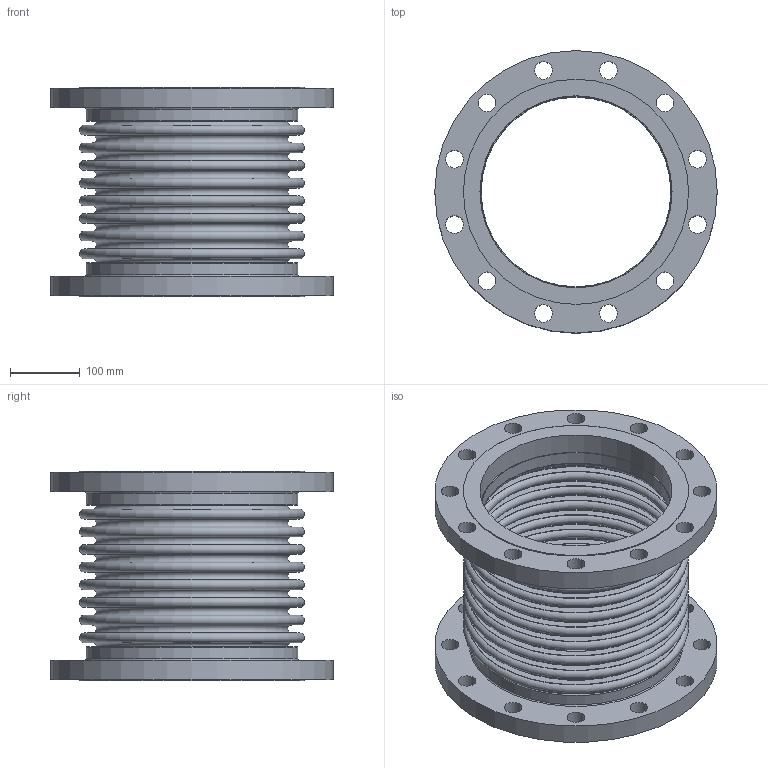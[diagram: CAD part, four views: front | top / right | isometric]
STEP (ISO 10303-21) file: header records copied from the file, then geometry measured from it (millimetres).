
FILE_DESCRIPTION(/* description */ ('EXPANSION JOINT,SINGLE, FLANGED ENDS,10 INCH NOMINAL','CAx-IF Rec.Pracs.---Representation and Presentation of Product Manufacturing Information (PMI)---4.0---2014-10-13'),/* implementation_level */ '2;1');
FILE_NAME(/* name */ 'US-10-8-150S-FLANGED ENDS.stp',/* time_stamp */ '2026-07-31T17:16:16-05:00',/* author */ ('Guadalupe'),/* organization */ (''),/* preprocessor_version */ 'ST-DEVELOPER v20.1',/* originating_system */ 'Autodesk Inventor 2026',/* authorisation */ '');
FILE_SCHEMA (('AP242_MANAGED_MODEL_BASED_3D_ENGINEERING_MIM_LF { 1 0 10303 442 2 1 4 }'));
Length unit declared in the file: inch
Products named in the file (3): 10-150S; 10-150S-02; 10-150S-01
Assembly tree (3 placements, depth 2):
  10-150S
    10-150S-02  x2
    10-150S-01
Bounding box: 406.4 x 406.4 x 301.75 mm (x, y, z)
Volume: 4806183.6 mm3; surface area: 1519837.5 mm2
Topology: 5 solids, 5 shells, 120 faces, 222 edges, 148 vertices
Faces by surface type: plane 46, torus 38, cylinder 36
Full cylindrical faces by diameter (mm): 25.4 x24, 273.05 x2, 275.488 x2, 276.352 x2, 304.8 x2, 323.85 x2, 406.4 x2
Entity records: 2714 total; most frequent: DIRECTION 550, CARTESIAN_POINT 401, ORIENTED_EDGE 336, AXIS2_PLACEMENT_3D 265, EDGE_CURVE 168, EDGE_LOOP 164, CIRCLE 148, VERTEX_POINT 112
